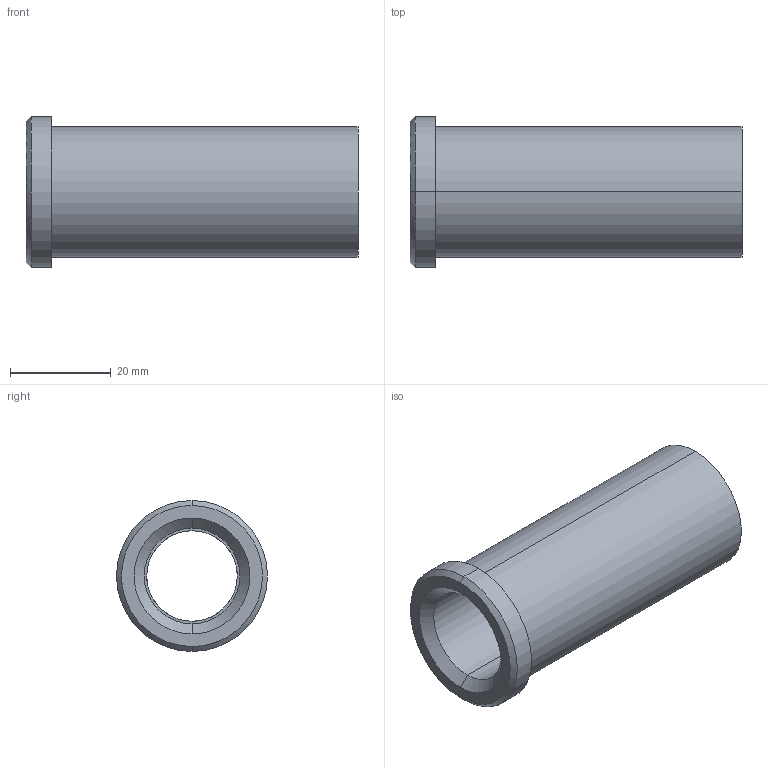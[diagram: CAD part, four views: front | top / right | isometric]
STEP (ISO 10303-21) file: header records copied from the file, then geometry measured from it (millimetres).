
FILE_DESCRIPTION(('CATIA V5 STEP Exchange'),'2;1');
FILE_NAME('C:\Users\Utente\Desktop\IO LAVORO\3D X SITO CF\X SITO\PLASTICA\353\353-18X66.stp','2021-05-08T08:41:04+00:00',('none'),('none'),'CATIA Version 5 Release 20 GA (IN-10)','CATIA V5 STEP AP203','none');
FILE_SCHEMA(('CONFIG_CONTROL_DESIGN'));
Length unit declared in the file: millimetre
Products named in the file (1): 353-18X66
Bounding box: 66 x 30 x 30 mm (x, y, z)
Volume: 18052.1 mm3; surface area: 10028.4 mm2
Topology: 1 solids, 1 shells, 18 faces, 58 edges, 44 vertices
Faces by surface type: cylinder 8, plane 4, cone 4, torus 2
Entity records: 840 total; most frequent: CARTESIAN_POINT 289, ORIENTED_EDGE 116, DIRECTION 82, EDGE_CURVE 58, AXIS2_PLACEMENT_3D 53, VERTEX_POINT 44, CIRCLE 34, EDGE_LOOP 22
